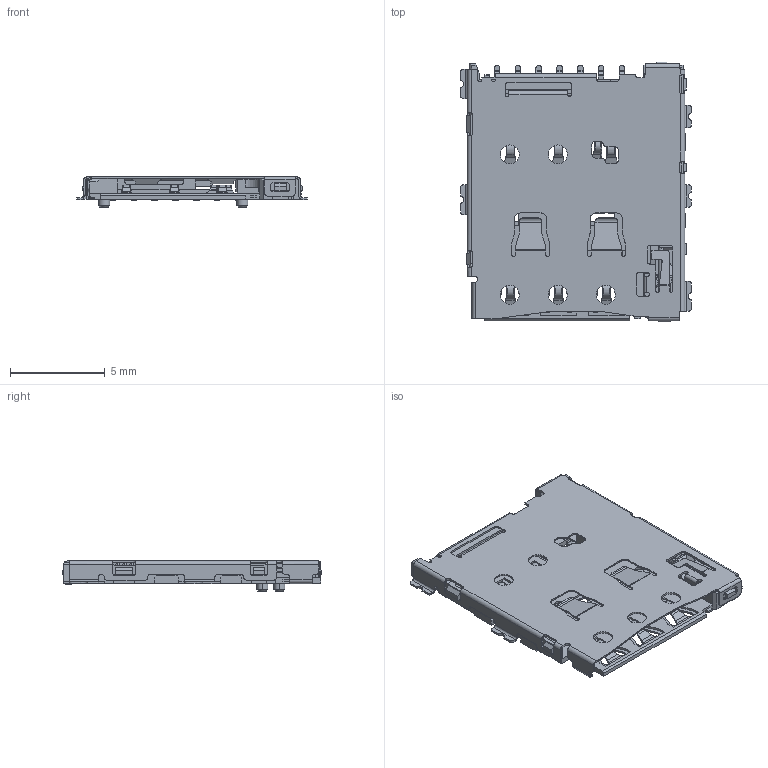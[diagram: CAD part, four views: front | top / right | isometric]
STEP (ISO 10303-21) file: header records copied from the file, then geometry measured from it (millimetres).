
FILE_DESCRIPTION((''),'2;1');
FILE_NAME('124NANO_PUSH0311_ASM','2021-05-03T',('Administrator'),(''),'CREO PARAMETRIC BY PTC INC, 2014500','CREO PARAMETRIC BY PTC INC, 2014500','');
FILE_SCHEMA(('AUTOMOTIVE_DESIGN { 1 0 10303 214 1 1 1 1 }'));
Products named in the file (1): 124NANO_PUSH0311_ASM
Bounding box: 12.2 x 13.74 x 1.59 mm (x, y, z)
Volume: 60.5 mm3; surface area: 794.5 mm2
Topology: 1 solids, 5 shells, 2328 faces, 6391 edges, 3994 vertices
Faces by surface type: plane 1265, cylinder 604, bspline 357, cone 94, torus 8
Entity records: 109232 total; most frequent: CARTESIAN_POINT 41086, ORIENTED_EDGE 12782, DIRECTION 10516, EDGE_CURVE 6391, VECTOR 4052, LINE 4052, VERTEX_POINT 3994, AXIS2_PLACEMENT_3D 3232
